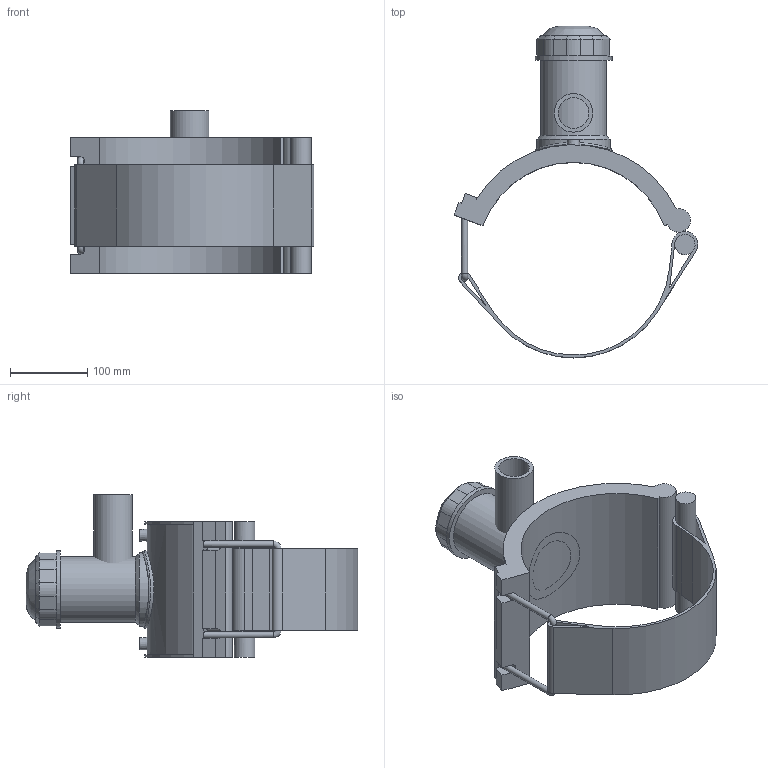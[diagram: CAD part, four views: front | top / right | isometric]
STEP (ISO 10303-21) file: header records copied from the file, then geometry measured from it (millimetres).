
FILE_DESCRIPTION(/* description */ (''),/* implementation_level */ '2;1');
FILE_NAME(/* name */ 'C:\Dropbox\KIMPROJECTS-Inventor 2019\99-16-3568-Processing\ElectroFusion Fittings\4963P4\stp\4963P4250050.stp',/* time_stamp */ '2022-03-17T11:33:22+02:00',/* author */ ('KIM'),/* organization */ (''),/* preprocessor_version */ 'ST-DEVELOPER v17.2',/* originating_system */ 'Autodesk Inventor 2019',/* authorisation */ '');
FILE_SCHEMA (('AUTOMOTIVE_DESIGN { 1 0 10303 214 3 1 1 }'));
Length unit declared in the file: millimetre
Products named in the file (1): 4963P4250050
Bounding box: 316.46 x 430.75 x 211 mm (x, y, z)
Volume: 2413647.3 mm3; surface area: 434660.6 mm2
Topology: 3 solids, 3 shells, 118 faces, 297 edges, 193 vertices
Faces by surface type: plane 65, cylinder 38, cone 11, torus 2, bspline 2
Full cylindrical faces by diameter (mm): 4 x2, 8 x2, 10 x2, 26.346 x1, 40 x1, 50 x1, 70 x1, 85 x1, 95 x1, 100 x2
Entity records: 4041 total; most frequent: CARTESIAN_POINT 1063, DIRECTION 631, ORIENTED_EDGE 596, EDGE_CURVE 298, AXIS2_PLACEMENT_3D 229, VERTEX_POINT 193, LINE 173, VECTOR 173
